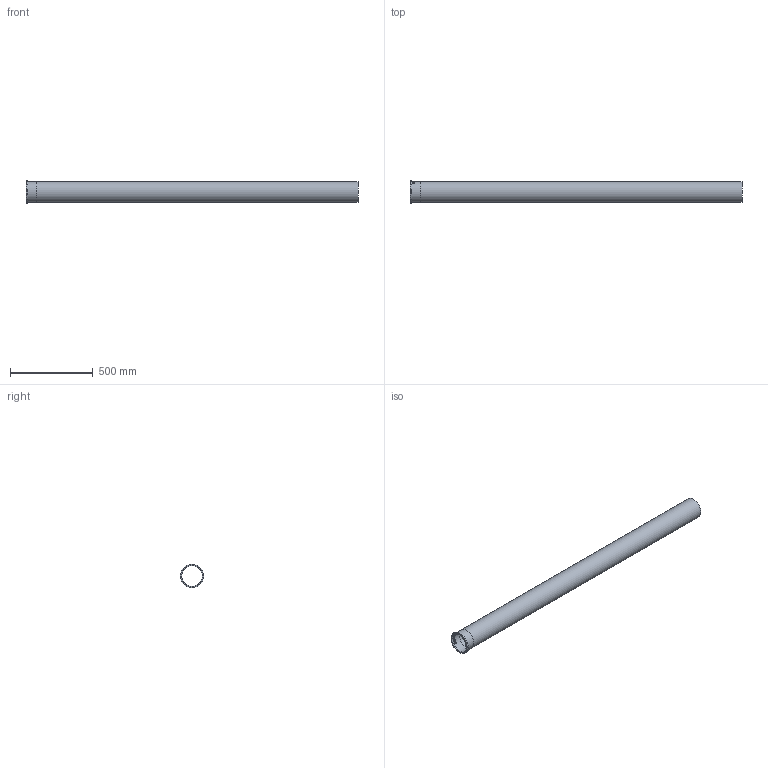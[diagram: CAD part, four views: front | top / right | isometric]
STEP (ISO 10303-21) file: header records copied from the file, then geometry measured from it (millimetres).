
FILE_DESCRIPTION((''),'2;1');
FILE_NAME('I:\WATTS\3D_CAD\3D_CAD_Models\Blucher_Drains\P_StraightPipe\WebsiteFiles\3D\STEP\P5-6.6-316.stp','2009-12-02T14:27:25',('menesek'),(''),'Autodesk Inventor 2010','Autodesk Inventor 2010','');
FILE_SCHEMA(('AUTOMOTIVE_DESIGN { 1 0 10303 214 1 1 1 1 }'));
Length unit declared in the file: inch
Products named in the file (1): P5-6.6-316
Bounding box: 2000 x 139.95 x 139.95 mm (x, y, z)
Volume: 822739.5 mm3; surface area: 1565252.2 mm2
Topology: 1 solids, 1 shells, 109 faces, 285 edges, 190 vertices
Faces by surface type: plane 59, bspline 34, cylinder 16
Full cylindrical faces by diameter (mm): 122.936 x1, 124.968 x1, 125.984 x2, 139.954 x1
Entity records: 13939 total; most frequent: CARTESIAN_POINT 11561, ORIENTED_EDGE 548, DIRECTION 356, EDGE_CURVE 274, VERTEX_POINT 186, EDGE_LOOP 128, AXIS2_PLACEMENT_3D 120, VECTOR 116
